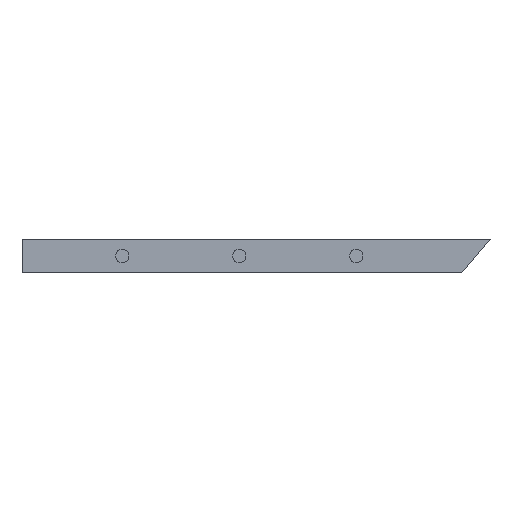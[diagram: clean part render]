
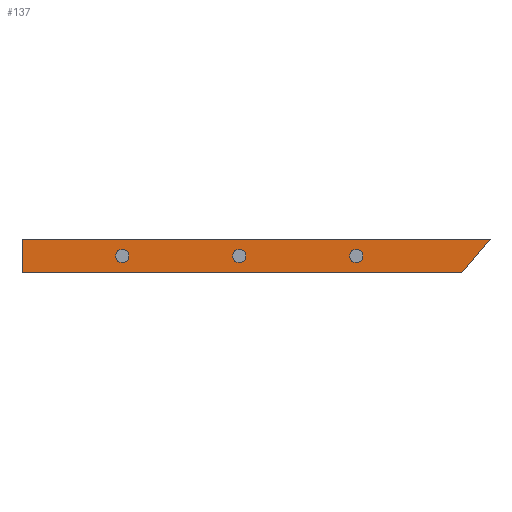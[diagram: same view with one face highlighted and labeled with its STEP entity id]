
A CAD part, left-side view. The second image highlights one B-rep face of the part: STEP entity #137.
In plain terms, the highlighted planar face has unit normal (-1, 0, 0).
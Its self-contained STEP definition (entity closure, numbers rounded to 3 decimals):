
#21 = EDGE_CURVE('',#22,#24,#26,.T.);
#22 = VERTEX_POINT('',#23);
#23 = CARTESIAN_POINT('',(0.,140.,0.));
#24 = VERTEX_POINT('',#25);
#25 = CARTESIAN_POINT('',(0.,140.,10.));
#26 = SURFACE_CURVE('',#27,(#31,#43),.PCURVE_S1.);
#27 = LINE('',#28,#29);
#28 = CARTESIAN_POINT('',(0.,140.,0.));
#29 = VECTOR('',#30,1.);
#30 = DIRECTION('',(0.,0.,1.));
#31 = PCURVE('',#32,#37);
#32 = PLANE('',#33);
#33 = AXIS2_PLACEMENT_3D('',#34,#35,#36);
#34 = CARTESIAN_POINT('',(0.,140.,0.));
#35 = DIRECTION('',(0.,1.,0.));
#36 = DIRECTION('',(1.,0.,0.));
#37 = DEFINITIONAL_REPRESENTATION('',(#38),#42);
#38 = LINE('',#39,#40);
#39 = CARTESIAN_POINT('',(0.,0.));
#40 = VECTOR('',#41,1.);
#41 = DIRECTION('',(0.,-1.));
#42 = ( GEOMETRIC_REPRESENTATION_CONTEXT(2) 
PARAMETRIC_REPRESENTATION_CONTEXT() REPRESENTATION_CONTEXT('2D SPACE',''
  ) );
#43 = PCURVE('',#44,#49);
#44 = PLANE('',#45);
#45 = AXIS2_PLACEMENT_3D('',#46,#47,#48);
#46 = CARTESIAN_POINT('',(0.,0.,0.));
#47 = DIRECTION('',(-1.,0.,0.));
#48 = DIRECTION('',(0.,1.,0.));
#49 = DEFINITIONAL_REPRESENTATION('',(#50),#54);
#50 = LINE('',#51,#52);
#51 = CARTESIAN_POINT('',(140.,0.));
#52 = VECTOR('',#53,1.);
#53 = DIRECTION('',(0.,-1.));
#54 = ( GEOMETRIC_REPRESENTATION_CONTEXT(2) 
PARAMETRIC_REPRESENTATION_CONTEXT() REPRESENTATION_CONTEXT('2D SPACE',''
  ) );
#72 = PLANE('',#73);
#73 = AXIS2_PLACEMENT_3D('',#74,#75,#76);
#74 = CARTESIAN_POINT('',(137.5,70.,10.));
#75 = DIRECTION('',(-0.,-0.,-1.));
#76 = DIRECTION('',(-1.,0.,0.));
#126 = PLANE('',#127);
#127 = AXIS2_PLACEMENT_3D('',#128,#129,#130);
#128 = CARTESIAN_POINT('',(137.5,70.,0.));
#129 = DIRECTION('',(-0.,-0.,-1.));
#130 = DIRECTION('',(-1.,0.,0.));
#137 = ADVANCED_FACE('',(#138,#211,#242,#273),#44,.T.);
#138 = FACE_BOUND('',#139,.T.);
#139 = EDGE_LOOP('',(#140,#168,#189,#190));
#140 = ORIENTED_EDGE('',*,*,#141,.T.);
#141 = EDGE_CURVE('',#142,#144,#146,.T.);
#142 = VERTEX_POINT('',#143);
#143 = CARTESIAN_POINT('',(0.,8.391,0.));
#144 = VERTEX_POINT('',#145);
#145 = CARTESIAN_POINT('',(0.,0.,10.));
#146 = SURFACE_CURVE('',#147,(#151,#157),.PCURVE_S1.);
#147 = LINE('',#148,#149);
#148 = CARTESIAN_POINT('',(0.,2.462,7.066));
#149 = VECTOR('',#150,1.);
#150 = DIRECTION('',(0.,-0.643,0.766));
#151 = PCURVE('',#44,#152);
#152 = DEFINITIONAL_REPRESENTATION('',(#153),#156);
#153 = B_SPLINE_CURVE_WITH_KNOTS('',1,(#154,#155),.UNSPECIFIED.,.F.,.F.,
  (2,2),(-10.529,5.136),.PIECEWISE_BEZIER_KNOTS.);
#154 = CARTESIAN_POINT('',(9.23,1.));
#155 = CARTESIAN_POINT('',(-0.839,-11.));
#156 = ( GEOMETRIC_REPRESENTATION_CONTEXT(2) 
PARAMETRIC_REPRESENTATION_CONTEXT() REPRESENTATION_CONTEXT('2D SPACE',''
  ) );
#157 = PCURVE('',#158,#163);
#158 = PLANE('',#159);
#159 = AXIS2_PLACEMENT_3D('',#160,#161,#162);
#160 = CARTESIAN_POINT('',(275.,0.,10.));
#161 = DIRECTION('',(0.,-0.766,-0.643));
#162 = DIRECTION('',(0.,0.643,-0.766));
#163 = DEFINITIONAL_REPRESENTATION('',(#164),#167);
#164 = B_SPLINE_CURVE_WITH_KNOTS('',1,(#165,#166),.UNSPECIFIED.,.F.,.F.,
  (2,2),(-10.529,5.136),.PIECEWISE_BEZIER_KNOTS.);
#165 = CARTESIAN_POINT('',(14.359,-275.));
#166 = CARTESIAN_POINT('',(-1.305,-275.));
#167 = ( GEOMETRIC_REPRESENTATION_CONTEXT(2) 
PARAMETRIC_REPRESENTATION_CONTEXT() REPRESENTATION_CONTEXT('2D SPACE',''
  ) );
#168 = ORIENTED_EDGE('',*,*,#169,.T.);
#169 = EDGE_CURVE('',#144,#24,#170,.T.);
#170 = SURFACE_CURVE('',#171,(#175,#182),.PCURVE_S1.);
#171 = LINE('',#172,#173);
#172 = CARTESIAN_POINT('',(0.,0.,10.));
#173 = VECTOR('',#174,1.);
#174 = DIRECTION('',(0.,1.,0.));
#175 = PCURVE('',#44,#176);
#176 = DEFINITIONAL_REPRESENTATION('',(#177),#181);
#177 = LINE('',#178,#179);
#178 = CARTESIAN_POINT('',(0.,-10.));
#179 = VECTOR('',#180,1.);
#180 = DIRECTION('',(1.,0.));
#181 = ( GEOMETRIC_REPRESENTATION_CONTEXT(2) 
PARAMETRIC_REPRESENTATION_CONTEXT() REPRESENTATION_CONTEXT('2D SPACE',''
  ) );
#182 = PCURVE('',#72,#183);
#183 = DEFINITIONAL_REPRESENTATION('',(#184),#188);
#184 = LINE('',#185,#186);
#185 = CARTESIAN_POINT('',(137.5,-70.));
#186 = VECTOR('',#187,1.);
#187 = DIRECTION('',(0.,1.));
#188 = ( GEOMETRIC_REPRESENTATION_CONTEXT(2) 
PARAMETRIC_REPRESENTATION_CONTEXT() REPRESENTATION_CONTEXT('2D SPACE',''
  ) );
#189 = ORIENTED_EDGE('',*,*,#21,.F.);
#190 = ORIENTED_EDGE('',*,*,#191,.F.);
#191 = EDGE_CURVE('',#142,#22,#192,.T.);
#192 = SURFACE_CURVE('',#193,(#197,#204),.PCURVE_S1.);
#193 = LINE('',#194,#195);
#194 = CARTESIAN_POINT('',(0.,0.,0.));
#195 = VECTOR('',#196,1.);
#196 = DIRECTION('',(0.,1.,0.));
#197 = PCURVE('',#44,#198);
#198 = DEFINITIONAL_REPRESENTATION('',(#199),#203);
#199 = LINE('',#200,#201);
#200 = CARTESIAN_POINT('',(0.,0.));
#201 = VECTOR('',#202,1.);
#202 = DIRECTION('',(1.,0.));
#203 = ( GEOMETRIC_REPRESENTATION_CONTEXT(2) 
PARAMETRIC_REPRESENTATION_CONTEXT() REPRESENTATION_CONTEXT('2D SPACE',''
  ) );
#204 = PCURVE('',#126,#205);
#205 = DEFINITIONAL_REPRESENTATION('',(#206),#210);
#206 = LINE('',#207,#208);
#207 = CARTESIAN_POINT('',(137.5,-70.));
#208 = VECTOR('',#209,1.);
#209 = DIRECTION('',(0.,1.));
#210 = ( GEOMETRIC_REPRESENTATION_CONTEXT(2) 
PARAMETRIC_REPRESENTATION_CONTEXT() REPRESENTATION_CONTEXT('2D SPACE',''
  ) );
#211 = FACE_BOUND('',#212,.T.);
#212 = EDGE_LOOP('',(#213));
#213 = ORIENTED_EDGE('',*,*,#214,.F.);
#214 = EDGE_CURVE('',#215,#215,#217,.T.);
#215 = VERTEX_POINT('',#216);
#216 = CARTESIAN_POINT('',(0.,73.,5.));
#217 = SURFACE_CURVE('',#218,(#223,#230),.PCURVE_S1.);
#218 = CIRCLE('',#219,2.);
#219 = AXIS2_PLACEMENT_3D('',#220,#221,#222);
#220 = CARTESIAN_POINT('',(0.,75.,5.));
#221 = DIRECTION('',(-1.,0.,0.));
#222 = DIRECTION('',(0.,-1.,0.));
#223 = PCURVE('',#44,#224);
#224 = DEFINITIONAL_REPRESENTATION('',(#225),#229);
#225 = CIRCLE('',#226,2.);
#226 = AXIS2_PLACEMENT_2D('',#227,#228);
#227 = CARTESIAN_POINT('',(75.,-5.));
#228 = DIRECTION('',(-1.,0.));
#229 = ( GEOMETRIC_REPRESENTATION_CONTEXT(2) 
PARAMETRIC_REPRESENTATION_CONTEXT() REPRESENTATION_CONTEXT('2D SPACE',''
  ) );
#230 = PCURVE('',#231,#236);
#231 = CYLINDRICAL_SURFACE('',#232,2.);
#232 = AXIS2_PLACEMENT_3D('',#233,#234,#235);
#233 = CARTESIAN_POINT('',(0.,75.,5.));
#234 = DIRECTION('',(-1.,0.,0.));
#235 = DIRECTION('',(0.,-1.,0.));
#236 = DEFINITIONAL_REPRESENTATION('',(#237),#241);
#237 = LINE('',#238,#239);
#238 = CARTESIAN_POINT('',(0.,0.));
#239 = VECTOR('',#240,1.);
#240 = DIRECTION('',(1.,0.));
#241 = ( GEOMETRIC_REPRESENTATION_CONTEXT(2) 
PARAMETRIC_REPRESENTATION_CONTEXT() REPRESENTATION_CONTEXT('2D SPACE',''
  ) );
#242 = FACE_BOUND('',#243,.T.);
#243 = EDGE_LOOP('',(#244));
#244 = ORIENTED_EDGE('',*,*,#245,.F.);
#245 = EDGE_CURVE('',#246,#246,#248,.T.);
#246 = VERTEX_POINT('',#247);
#247 = CARTESIAN_POINT('',(0.,38.,5.));
#248 = SURFACE_CURVE('',#249,(#254,#261),.PCURVE_S1.);
#249 = CIRCLE('',#250,2.);
#250 = AXIS2_PLACEMENT_3D('',#251,#252,#253);
#251 = CARTESIAN_POINT('',(0.,40.,5.));
#252 = DIRECTION('',(-1.,0.,0.));
#253 = DIRECTION('',(0.,-1.,0.));
#254 = PCURVE('',#44,#255);
#255 = DEFINITIONAL_REPRESENTATION('',(#256),#260);
#256 = CIRCLE('',#257,2.);
#257 = AXIS2_PLACEMENT_2D('',#258,#259);
#258 = CARTESIAN_POINT('',(40.,-5.));
#259 = DIRECTION('',(-1.,0.));
#260 = ( GEOMETRIC_REPRESENTATION_CONTEXT(2) 
PARAMETRIC_REPRESENTATION_CONTEXT() REPRESENTATION_CONTEXT('2D SPACE',''
  ) );
#261 = PCURVE('',#262,#267);
#262 = CYLINDRICAL_SURFACE('',#263,2.);
#263 = AXIS2_PLACEMENT_3D('',#264,#265,#266);
#264 = CARTESIAN_POINT('',(0.,40.,5.));
#265 = DIRECTION('',(-1.,0.,0.));
#266 = DIRECTION('',(0.,-1.,0.));
#267 = DEFINITIONAL_REPRESENTATION('',(#268),#272);
#268 = LINE('',#269,#270);
#269 = CARTESIAN_POINT('',(0.,0.));
#270 = VECTOR('',#271,1.);
#271 = DIRECTION('',(1.,0.));
#272 = ( GEOMETRIC_REPRESENTATION_CONTEXT(2) 
PARAMETRIC_REPRESENTATION_CONTEXT() REPRESENTATION_CONTEXT('2D SPACE',''
  ) );
#273 = FACE_BOUND('',#274,.T.);
#274 = EDGE_LOOP('',(#275));
#275 = ORIENTED_EDGE('',*,*,#276,.F.);
#276 = EDGE_CURVE('',#277,#277,#279,.T.);
#277 = VERTEX_POINT('',#278);
#278 = CARTESIAN_POINT('',(0.,108.,5.));
#279 = SURFACE_CURVE('',#280,(#285,#292),.PCURVE_S1.);
#280 = CIRCLE('',#281,2.);
#281 = AXIS2_PLACEMENT_3D('',#282,#283,#284);
#282 = CARTESIAN_POINT('',(0.,110.,5.));
#283 = DIRECTION('',(-1.,0.,0.));
#284 = DIRECTION('',(0.,-1.,0.));
#285 = PCURVE('',#44,#286);
#286 = DEFINITIONAL_REPRESENTATION('',(#287),#291);
#287 = CIRCLE('',#288,2.);
#288 = AXIS2_PLACEMENT_2D('',#289,#290);
#289 = CARTESIAN_POINT('',(110.,-5.));
#290 = DIRECTION('',(-1.,0.));
#291 = ( GEOMETRIC_REPRESENTATION_CONTEXT(2) 
PARAMETRIC_REPRESENTATION_CONTEXT() REPRESENTATION_CONTEXT('2D SPACE',''
  ) );
#292 = PCURVE('',#293,#298);
#293 = CYLINDRICAL_SURFACE('',#294,2.);
#294 = AXIS2_PLACEMENT_3D('',#295,#296,#297);
#295 = CARTESIAN_POINT('',(0.,110.,5.));
#296 = DIRECTION('',(-1.,0.,0.));
#297 = DIRECTION('',(0.,-1.,0.));
#298 = DEFINITIONAL_REPRESENTATION('',(#299),#303);
#299 = LINE('',#300,#301);
#300 = CARTESIAN_POINT('',(0.,0.));
#301 = VECTOR('',#302,1.);
#302 = DIRECTION('',(1.,0.));
#303 = ( GEOMETRIC_REPRESENTATION_CONTEXT(2) 
PARAMETRIC_REPRESENTATION_CONTEXT() REPRESENTATION_CONTEXT('2D SPACE',''
  ) );
